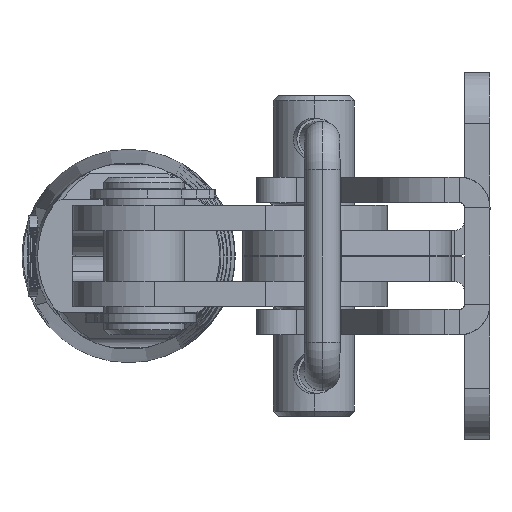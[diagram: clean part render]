
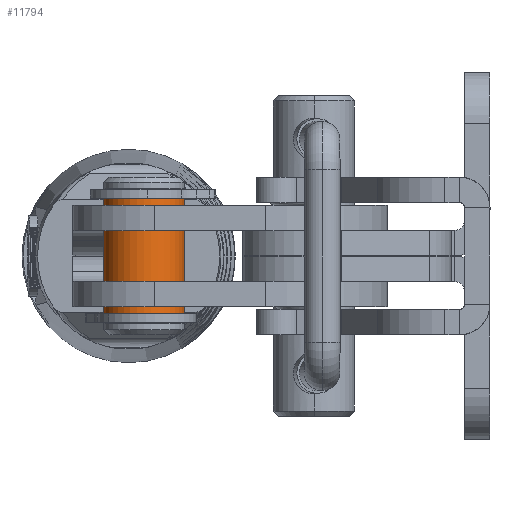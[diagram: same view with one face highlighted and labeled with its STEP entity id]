
A CAD part, left-side view. The second image highlights one B-rep face of the part: STEP entity #11794.
In plain terms, the highlighted cylindrical face has radius 4 mm (diameter 8 mm), a partial arc.
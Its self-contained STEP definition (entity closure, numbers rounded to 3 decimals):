
#234 = DIRECTION ( 'NONE',  ( 0., 0., 1. ) ) ;
#524 = CARTESIAN_POINT ( 'NONE',  ( 0., 4., 7.75 ) ) ;
#688 = VECTOR ( 'NONE', #6244, 1000. ) ;
#1381 = ORIENTED_EDGE ( 'NONE', *, *, #14203, .F. ) ;
#1568 = AXIS2_PLACEMENT_3D ( 'NONE', #9120, #4461, #3138 ) ;
#2198 = VERTEX_POINT ( 'NONE', #15438 ) ;
#2320 = ORIENTED_EDGE ( 'NONE', *, *, #2791, .F. ) ;
#2791 = EDGE_CURVE ( 'NONE', #6805, #7948, #12181, .T. ) ;
#3138 = DIRECTION ( 'NONE',  ( 0., -1., 0. ) ) ;
#3273 = EDGE_CURVE ( 'NONE', #2198, #7948, #4901, .T. ) ;
#3403 = CARTESIAN_POINT ( 'NONE',  ( 0., -4., 7.75 ) ) ;
#3437 = VECTOR ( 'NONE', #234, 1000. ) ;
#4461 = DIRECTION ( 'NONE',  ( 0., 0., 1. ) ) ;
#4901 = LINE ( 'NONE', #3403, #688 ) ;
#4935 = AXIS2_PLACEMENT_3D ( 'NONE', #16257, #15801, #14278 ) ;
#4973 = FACE_OUTER_BOUND ( 'NONE', #5738, .T. ) ;
#5738 = EDGE_LOOP ( 'NONE', ( #1381, #7830, #17367, #2320 ) ) ;
#6244 = DIRECTION ( 'NONE',  ( 0., 0., 1. ) ) ;
#6704 = CARTESIAN_POINT ( 'NONE',  ( 0., -4., 5.7 ) ) ;
#6805 = VERTEX_POINT ( 'NONE', #17877 ) ;
#7830 = ORIENTED_EDGE ( 'NONE', *, *, #12872, .T. ) ;
#7915 = LINE ( 'NONE', #524, #3437 ) ;
#7948 = VERTEX_POINT ( 'NONE', #6704 ) ;
#8640 = CARTESIAN_POINT ( 'NONE',  ( 0., 4., -5.7 ) ) ;
#8976 = DIRECTION ( 'NONE',  ( 0., -1., 0. ) ) ;
#9120 = CARTESIAN_POINT ( 'NONE',  ( 0., 0., 5.7 ) ) ;
#9383 = AXIS2_PLACEMENT_3D ( 'NONE', #16582, #13714, #8976 ) ;
#10768 = CYLINDRICAL_SURFACE ( 'NONE', #9383, 4. ) ;
#11794 = ADVANCED_FACE ( 'NONE', ( #4973 ), #10768, .T. ) ;
#12181 = CIRCLE ( 'NONE', #1568, 4. ) ;
#12241 = VERTEX_POINT ( 'NONE', #8640 ) ;
#12872 = EDGE_CURVE ( 'NONE', #12241, #2198, #16168, .T. ) ;
#13714 = DIRECTION ( 'NONE',  ( 0., 0., 1. ) ) ;
#14203 = EDGE_CURVE ( 'NONE', #12241, #6805, #7915, .T. ) ;
#14278 = DIRECTION ( 'NONE',  ( 0., -1., 0. ) ) ;
#15438 = CARTESIAN_POINT ( 'NONE',  ( 0., -4., -5.7 ) ) ;
#15801 = DIRECTION ( 'NONE',  ( 0., 0., 1. ) ) ;
#16168 = CIRCLE ( 'NONE', #4935, 4. ) ;
#16257 = CARTESIAN_POINT ( 'NONE',  ( 0., 0., -5.7 ) ) ;
#16582 = CARTESIAN_POINT ( 'NONE',  ( 0., 0., 7.75 ) ) ;
#17367 = ORIENTED_EDGE ( 'NONE', *, *, #3273, .T. ) ;
#17877 = CARTESIAN_POINT ( 'NONE',  ( 0., 4., 5.7 ) ) ;
